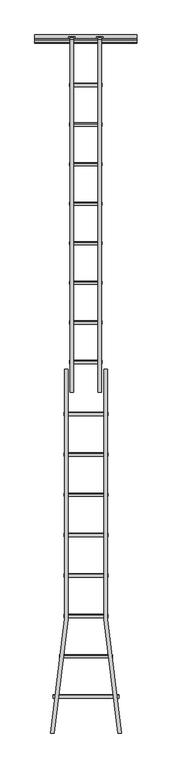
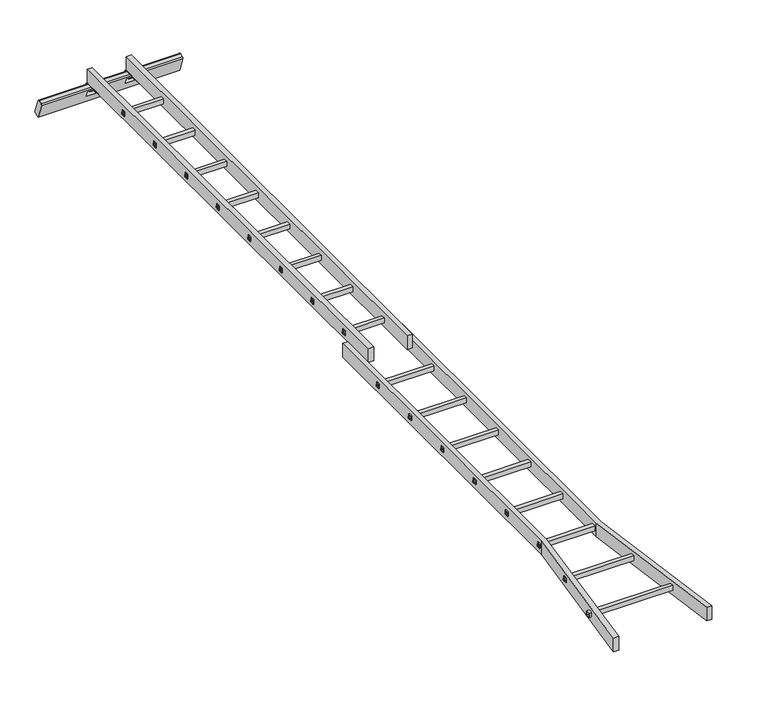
"""IFC4 building model written with IfcOpenShell, lengths in millimetres: proxy geometry, 9_Topaccess_Trap_2delige1 : 9_Topaccess_Trap_2delige1."""

import ifcopenshell
import ifcopenshell.guid

model = None  # the IFC model being written
_history = None  # IfcOwnerHistory: only IFC2X3 demands one
_inside = {}  # id of a spatial element -> (the spatial element, [elements in it])
_under = {}  # id of a project, library or spatial element -> (it, [spatial elements below it])
_declared = {}  # id of a project -> (the project, [libraries it declares])
_typed = {}  # id of a type object -> (the type object, [elements of that type])
_made_of = {}  # id of a material, layer set ... -> (it, [elements and type objects made of it])


def new_model(schema):
    """Start an empty IFC model of exactly this schema.

    Asked for "IFC4X3", IfcOpenShell would pick the latest addendum, in which some entities
    have other attributes; the version numbers below select the first issue.
    IFC2X3 requires an IfcOwnerHistory on every rooted entity: one is made here for all.
    """
    global model, _history
    if schema == "IFC4X3":
        model = ifcopenshell.file(schema_version=(4, 3, 0, 0))
    else:
        model = ifcopenshell.file(schema=schema)
    _inside.clear()
    _under.clear()
    _declared.clear()
    _typed.clear()
    _made_of.clear()
    _history = None
    if model.schema == "IFC2X3":
        org = make("IfcOrganization", Name="unknown")
        user = make(
            "IfcPersonAndOrganization",
            ThePerson=make("IfcPerson", FamilyName="unknown"),
            TheOrganization=org,
        )
        app = make(
            "IfcApplication",
            ApplicationDeveloper=org,
            Version="unknown",
            ApplicationFullName="unknown",
            ApplicationIdentifier="unknown",
        )
        _history = make(
            "IfcOwnerHistory",
            OwningUser=user,
            OwningApplication=app,
            ChangeAction="ADDED",
            CreationDate=0,
        )
    return model


def make(cls, **values):
    """One entity of the class cls with the attributes given. An attribute that is None is left unset."""
    return model.create_entity(
        cls, **{name: value for name, value in values.items() if value is not None}
    )


def rooted(cls, **values):
    """An entity with a GlobalId (a new one), such as an element, a storey or a relation."""
    return make(cls, GlobalId=ifcopenshell.guid.new(), OwnerHistory=_history, **values)


def si_unit(unit_type, name, prefix=None):
    """IfcSIUnit, for example si_unit("LENGTHUNIT", "METRE", prefix="MILLI")."""
    return make("IfcSIUnit", UnitType=unit_type, Prefix=prefix, Name=name)


def assignment(units):
    """IfcUnitAssignment: the units of a project."""
    return None if units is None else make("IfcUnitAssignment", Units=units)


def point(xyz):
    """IfcCartesianPoint."""
    return None if xyz is None else make("IfcCartesianPoint", Coordinates=xyz)


def direction(xyz):
    """IfcDirection."""
    return None if xyz is None else make("IfcDirection", DirectionRatios=xyz)


def frame(location, z_axis=None, x_axis=None):
    """IfcAxis2Placement3D, a coordinate frame: its origin and axes. An axis left out is left unset."""
    return make(
        "IfcAxis2Placement3D",
        Location=point(location),
        Axis=direction(z_axis),
        RefDirection=direction(x_axis),
    )


def frame_2d(location, x_axis=None):
    """IfcAxis2Placement2D, a coordinate frame in the plane: its origin and x axis."""
    return make(
        "IfcAxis2Placement2D", Location=point(location), RefDirection=direction(x_axis)
    )


def origin():
    """The frame at (0, 0, 0) with its axes left unset."""
    return frame((0.0, 0.0, 0.0))


def place(relative_to, where):
    """IfcLocalPlacement: puts the frame where relative to a parent placement (None: the world)."""
    return make(
        "IfcLocalPlacement", PlacementRelTo=relative_to, RelativePlacement=where
    )


def context(
    kind, dimensions, precision=None, world=None, true_north=None, identifier=None
):
    """IfcGeometricRepresentationContext, for example the 3D "Model" context."""
    return make(
        "IfcGeometricRepresentationContext",
        ContextIdentifier=identifier,
        ContextType=kind,
        CoordinateSpaceDimension=dimensions,
        Precision=precision,
        WorldCoordinateSystem=world,
        TrueNorth=true_north,
    )


def project(units=None, contexts=None):
    """IfcProject with its units and contexts."""
    return rooted(
        "IfcProject",
        Name="project",
        RepresentationContexts=contexts,
        UnitsInContext=assignment(units),
    )


def spatial(cls, under=None, at=None, **own):
    """A site, building, storey or space (cls), placed at a placement, below another one or the project."""
    s = rooted(cls, ObjectPlacement=at, **own)
    if under is not None:
        _under.setdefault(under.id(), (under, []))[1].append(s)
    return s


def polyline(points):
    """IfcPolyline through the points."""
    return make("IfcPolyline", Points=[point(p) for p in points])


def circle_curve(where, radius):
    """IfcCircle in the frame where."""
    return make("IfcCircle", Position=where, Radius=radius)


def trimmed(basis, trim1, trim2, sense, master):
    """IfcTrimmedCurve: the piece of a basis curve between two trims."""
    return make(
        "IfcTrimmedCurve",
        BasisCurve=basis,
        Trim1=trim1,
        Trim2=trim2,
        SenseAgreement=sense,
        MasterRepresentation=master,
    )


def segment(curve, same_sense, transition):
    """IfcCompositeCurveSegment."""
    return make(
        "IfcCompositeCurveSegment",
        Transition=transition,
        SameSense=same_sense,
        ParentCurve=curve,
    )


def composite_curve(segments, self_intersect=None):
    """IfcCompositeCurve: segments joined end to end."""
    return make("IfcCompositeCurve", Segments=segments, SelfIntersect=self_intersect)


def outline(outer, holes=None, kind="AREA"):
    """IfcArbitraryClosedProfileDef: a profile drawn as a closed curve; with holes, ...WithVoids."""
    if holes is None:
        return make("IfcArbitraryClosedProfileDef", ProfileType=kind, OuterCurve=outer)
    return make(
        "IfcArbitraryProfileDefWithVoids",
        ProfileType=kind,
        OuterCurve=outer,
        InnerCurves=holes,
    )


def extrude(swept, where, along, depth):
    """IfcExtrudedAreaSolid: the profile swept, set in the frame where, extruded along a direction by depth."""
    return make(
        "IfcExtrudedAreaSolid",
        SweptArea=swept,
        Position=where,
        ExtrudedDirection=direction(along),
        Depth=depth,
    )


def faces_of(points, faces, orient=None, outer=None):
    """IfcFace entities. A face is a list of loops; a loop is a list of indices into points, from 0.

    orient and outer hold one flag for each loop. By default every Orientation is true, the
    first loop of a face is its IfcFaceOuterBound and the others are IfcFaceBound.
    """
    made = []
    for i, loops in enumerate(faces):
        bounds = []
        for j, loop in enumerate(loops):
            is_outer = j == 0 if outer is None else outer[i][j]
            bounds.append(
                make(
                    "IfcFaceOuterBound" if is_outer else "IfcFaceBound",
                    Bound=make("IfcPolyLoop", Polygon=[points[k] for k in loop]),
                    Orientation=True if orient is None else orient[i][j],
                )
            )
        made.append(make("IfcFace", Bounds=bounds))
    return made


def faceted_brep(points, faces, orient=None, outer=None, voids=None):
    """IfcFacetedBrep: a solid bounded by flat faces; with voids (closed shells), ...WithVoids."""
    shared = [point(p) for p in points]
    hull = make("IfcClosedShell", CfsFaces=faces_of(shared, faces, orient, outer))
    if voids is None:
        return make("IfcFacetedBrep", Outer=hull)
    return make(
        "IfcFacetedBrepWithVoids",
        Outer=hull,
        Voids=[
            make(cls, CfsFaces=faces_of(shared, fs, o, b)) for cls, fs, o, b in voids
        ],
    )


def shape(context_of_items, identifier, shape_type, items):
    """IfcShapeRepresentation: the items that make up one representation, for example the "Body"."""
    return make(
        "IfcShapeRepresentation",
        ContextOfItems=context_of_items,
        RepresentationIdentifier=identifier,
        RepresentationType=shape_type,
        Items=items,
    )


def source(mapping_origin, context_of_items, identifier, shape_type, items):
    """IfcRepresentationMap: a shape defined once, which mapped items show again and again."""
    return make(
        "IfcRepresentationMap",
        MappingOrigin=mapping_origin,
        MappedRepresentation=shape(context_of_items, identifier, shape_type, items),
    )


def transform(
    local_origin,
    x_axis=None,
    y_axis=None,
    z_axis=None,
    scale=None,
    scale2=None,
    scale3=None,
    uniform=True,
):
    """IfcCartesianTransformationOperator3D, or its non-uniform kind. x_axis, y_axis, z_axis: its Axis1, 2, 3."""
    if uniform:
        return make(
            "IfcCartesianTransformationOperator3D",
            Axis1=direction(x_axis),
            Axis2=direction(y_axis),
            LocalOrigin=point(local_origin),
            Scale=scale,
            Axis3=direction(z_axis),
        )
    return make(
        "IfcCartesianTransformationOperator3DnonUniform",
        Axis1=direction(x_axis),
        Axis2=direction(y_axis),
        LocalOrigin=point(local_origin),
        Scale=scale,
        Axis3=direction(z_axis),
        Scale2=scale2,
        Scale3=scale3,
    )


def mapped(mapping_source, mapping_target):
    """IfcMappedItem: shows the shape of a source again, moved by a transform."""
    return make(
        "IfcMappedItem", MappingSource=mapping_source, MappingTarget=mapping_target
    )


def made_of(thing, what):
    """Note that an element or type object is made of a material, layer set ...; save() writes the relation."""
    if what is not None:
        _made_of.setdefault(what.id(), (what, []))[1].append(thing)
    return thing


def element(
    cls,
    number,
    at=None,
    inside=None,
    cuts=None,
    type_object=None,
    material=None,
    context=None,
    identifier="Body",
    shape_type=None,
    held_by="IfcProductDefinitionShape",
    body=None,
    shapes=None,
    **own,
):
    """One element of the class cls, such as IfcWall. Its Tag is "e" and its number.

    at: its placement. inside: the storey or other place that contains it. cuts: it is an
    opening in that element (IfcRelVoidsElement). A single representation is given by context,
    identifier, shape_type and body (its items); several are given by shapes. held_by: the class
    of the entity that holds the representations. save() writes the other relations.
    """
    e = rooted(cls, Tag="e%d" % number, ObjectPlacement=at, **own)
    if body is not None:
        shapes = [shape(context, identifier, shape_type, body)]
    if shapes is not None:
        e.Representation = make(held_by, Representations=shapes)
    if inside is not None:
        _inside.setdefault(inside.id(), (inside, []))[1].append(e)
    if cuts is not None:
        rooted(
            "IfcRelVoidsElement", RelatingBuildingElement=cuts, RelatedOpeningElement=e
        )
    if type_object is not None:
        _typed.setdefault(type_object.id(), (type_object, []))[1].append(e)
    return made_of(e, material)


def aggregate(whole, parts):
    """IfcRelAggregates: a whole, such as a stair, and the parts it consists of."""
    return rooted("IfcRelAggregates", RelatingObject=whole, RelatedObjects=parts)


def save(model, path):
    """Write the relations noted so far, then the file.

    IfcRelAggregates (storeys below a building ...), IfcRelContainedInSpatialStructure (elements
    in a storey), IfcRelDefinesByType, IfcRelAssociatesMaterial and IfcRelDeclares: one each for
    every whole, place, type object, material and project.
    """
    for whole, parts in _under.values():
        aggregate(whole, parts)
    for where, things in _inside.values():
        rooted(
            "IfcRelContainedInSpatialStructure",
            RelatedElements=things,
            RelatingStructure=where,
        )
    for kind, things in _typed.values():
        rooted("IfcRelDefinesByType", RelatedObjects=things, RelatingType=kind)
    for what, things in _made_of.values():
        rooted("IfcRelAssociatesMaterial", RelatedObjects=things, RelatingMaterial=what)
    for by, libraries in _declared.values():
        rooted("IfcRelDeclares", RelatingContext=by, RelatedDefinitions=libraries)
    model.write(path)


def plane_surface(at):
    """IfcPlane: the flat surface through the origin of the frame at, square to its z axis."""
    return make("IfcPlane", Position=at)


def cylinder_surface(at, radius):
    """IfcCylindricalSurface: all points at the distance radius from the z axis of the frame at."""
    return make("IfcCylindricalSurface", Position=at, Radius=radius)


def advanced_brep(points, edges, surfaces, faces):
    """IfcAdvancedBrep: a solid bounded by faces that lie on surfaces and meet in shared edges.

    An edge is (start, end): straight between two places in points (the first is 0);
    or (start, end, curve); or (start, end, curve, False) where it runs against its curve.
    A face is (place in surfaces, loops), or (place, loops, False) where it looks against
    its surface's normal. A loop lists edges by number (the first is 1), with a minus sign
    where the edge is run from its end to its start. The first loop is the outer one.
    """
    corners = [point(p) for p in points]
    vertices = [make("IfcVertexPoint", VertexGeometry=c) for c in corners]
    made = []
    for start, end, *more in edges:
        made.append(
            make(
                "IfcEdgeCurve",
                EdgeStart=vertices[start],
                EdgeEnd=vertices[end],
                EdgeGeometry=more[0] if more else make("IfcPolyline", Points=[corners[start], corners[end]]),
                SameSense=more[1] if len(more) > 1 else True,
            )
        )
    hull = []
    for where, loops, *sense in faces:
        bounds = []
        for j, loop in enumerate(loops):
            ring = [make("IfcOrientedEdge", EdgeElement=made[abs(k) - 1], Orientation=k > 0) for k in loop]
            bounds.append(
                make(
                    "IfcFaceOuterBound" if j == 0 else "IfcFaceBound",
                    Bound=make("IfcEdgeLoop", EdgeList=ring),
                    Orientation=True,
                )
            )
        hull.append(make("IfcAdvancedFace", Bounds=bounds, FaceSurface=surfaces[where], SameSense=sense[0] if sense else True))
    return make("IfcAdvancedBrep", Outer=make("IfcClosedShell", CfsFaces=hull))


def generic_models_bd8c62b8(model_context):
    return source(origin(), model_context, "Body", "SolidModel", [
        advanced_brep(
        [(415.7084157, 3.7135385, -65.5695796), (415.7084157, 41.3012433, -51.8887739), (415.7084157, 5.4722304, 46.5506299), (415.7084157, -6.0149188, 51.694848), (415.7084157, -26.6224472, 44.1943211), (415.7084157, -32.1154744, 32.8698242), (-484.2915843, 3.7135385, -65.5695796), (-484.2915843, -32.1154744, 32.8698242), (-484.2915843, -26.6224472, 44.1943211), (-484.2915843, -6.0149188, 51.694848), (-484.2915843, 5.4722304, 46.5506299), (-484.2915843, 41.3012433, -51.8887739), (118.0, 24.1096429, -4.6552401), (118.0, 9.5635744, 35.3097548), (59.0, 9.5635744, 35.3097548), (59.0, 24.1096429, -4.6552401), (-129.0, 24.1096429, -4.6552401), (-129.0, 9.5635744, 35.3097548), (-188.0, 9.5635744, 35.3097548), (-188.0, 24.1096429, -4.6552401), (118.0, -28.0241305, 21.6289491), (118.0, -13.4780619, -18.3360459), (59.0, -13.4780619, -18.3360459), (59.0, -28.0241305, 21.6289491), (-129.0, -28.0241305, 21.6289491), (-129.0, -13.4780619, -18.3360459), (-188.0, -13.4780619, -18.3360459), (-188.0, -28.0241305, 21.6289491)],
        [
            (0, 1),
            (1, 2),
            (2, 3, circle_curve(frame((415.7084157, -3.3366644, 42.2778132), z_axis=(1.0, 0.0, 0.0), x_axis=(0.0, 1.0, 0.0)), 9.7904847)),
            (3, 4),
            (4, 5, circle_curve(frame((415.7084157, -22.6209558, 35.2589052), z_axis=(1.0, 0.0, 0.0), x_axis=(0.0, 1.0, 0.0)), 9.7904847)),
            (5, 0),
            (6, 7),
            (7, 8, circle_curve(frame((-484.2915843, -22.6209558, 35.2589052), z_axis=(-1.0, 0.0, 0.0), x_axis=(0.0, 1.0, 0.0)), 9.7904847)),
            (8, 9),
            (9, 10, circle_curve(frame((-484.2915843, -3.3366644, 42.2778132), z_axis=(-1.0, 0.0, 0.0), x_axis=(0.0, 1.0, 0.0)), 9.7904847)),
            (10, 11),
            (11, 6),
            (0, 6),
            (11, 1),
            (10, 2),
            (12, 13),
            (13, 14),
            (14, 15),
            (15, 12),
            (16, 17),
            (17, 18),
            (18, 19),
            (19, 16),
            (3, 9),
            (8, 4),
            (5, 7),
            (20, 21),
            (21, 22),
            (22, 23),
            (23, 20),
            (24, 25),
            (25, 26),
            (26, 27),
            (27, 24),
            (20, 13),
            (12, 21),
            (22, 15),
            (14, 23),
            (24, 17),
            (16, 25),
            (26, 19),
            (18, 27),
        ],
        [
            plane_surface(frame((415.7084157, 3.7135385, -65.5695796), z_axis=(1.0, 0.0, 0.0), x_axis=(0.0, 0.9396926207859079, 0.34202014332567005))),
            plane_surface(frame((-484.2915843, 3.7135385, -65.5695796), z_axis=(-1.0, 0.0, 0.0), x_axis=(0.0, -0.9396926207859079, -0.34202014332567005))),
            plane_surface(frame((415.7084157, 3.7135385, -65.5695796), z_axis=(0.0, 0.34202014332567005, -0.9396926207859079), x_axis=(-1.0, 0.0, 0.0))),
            plane_surface(frame((415.7084157, 41.3012433, -51.8887739), z_axis=(0.0, 0.9396926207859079, 0.34202014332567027), x_axis=(-1.0, 0.0, 0.0))),
            plane_surface(frame((415.7084157, -6.0149188, 51.694848), z_axis=(0.0, -0.3420201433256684, 0.9396926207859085), x_axis=(-1.0, 0.0, 0.0))),
            plane_surface(frame((415.7084157, -32.1154744, 32.8698242), z_axis=(0.0, -0.9396926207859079, -0.34202014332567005), x_axis=(-1.0, 0.0, 0.0))),
            plane_surface(frame((118.0, -28.0241305, 21.6289491), z_axis=(-1.0000000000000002, 0.0, 0.0), x_axis=(0.0, 0.34202014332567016, -0.939692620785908))),
            plane_surface(frame((59.0, -28.0241305, 21.6289491), z_axis=(1.0000000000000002, 0.0, 0.0), x_axis=(0.0, -0.34202014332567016, 0.939692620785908))),
            plane_surface(frame((118.0, -13.4780619, -18.3360459), z_axis=(0.0, -0.3420201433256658, 0.9396926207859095), x_axis=(-1.0, 0.0, 0.0))),
            plane_surface(frame((118.0, 9.5635744, 35.3097548), z_axis=(0.0, 0.34202014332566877, -0.9396926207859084), x_axis=(-1.0, 0.0, 0.0))),
            plane_surface(frame((-129.0, 1.7959371, -67.5174339), z_axis=(-1.0000000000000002, 0.0, 0.0), x_axis=(0.0, 0.3420201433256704, -0.9396926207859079))),
            plane_surface(frame((-188.0, 1.7959371, -67.5174339), z_axis=(1.0000000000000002, 0.0, 0.0), x_axis=(0.0, -0.3420201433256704, 0.9396926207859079))),
            plane_surface(frame((-129.0, -15.7973748, -19.1802067), z_axis=(0.0, -0.3420201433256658, 0.9396926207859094), x_axis=(-1.0, 0.0, 0.0))),
            plane_surface(frame((-129.0, 9.5635744, 35.3097548), z_axis=(0.0, 0.342020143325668, -0.9396926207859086), x_axis=(-1.0, 0.0, 0.0))),
            cylinder_surface(frame((-484.2915843, -3.3366644, 42.2778132), z_axis=(1.0, 0.0, 0.0), x_axis=(0.0, 1.0, 0.0)), 9.7904847),
            cylinder_surface(frame((-484.2915843, -22.6209558, 35.2589052), z_axis=(1.0, 0.0, 0.0), x_axis=(0.0, 1.0, 0.0)), 9.7904847),
        ],
        [
            (0, [[1, 2, 3, 4, 5, 6]]),
            (1, [[7, 8, 9, 10, 11, 12]]),
            (2, [[-1, 13, -12, 14]]),
            (3, [[-2, -14, -11, 15], [16, 17, 18, 19], [20, 21, 22, 23]]),
            (4, [[-4, 24, -9, 25]]),
            (5, [[-6, 26, -7, -13], [27, 28, 29, 30], [31, 32, 33, 34]]),
            (6, [[35, -16, 36, -27]]),
            (7, [[37, -18, 38, -29]]),
            (8, [[-36, -19, -37, -28]]),
            (9, [[-35, -30, -38, -17]]),
            (10, [[39, -20, 40, -31]]),
            (11, [[41, -22, 42, -33]]),
            (12, [[-40, -23, -41, -32]]),
            (13, [[-39, -34, -42, -21]]),
            (14, [[-3, -15, -10, -24]]),
            (15, [[-5, -25, -8, -26]]),
        ],
    ),
        extrude(outline(composite_curve([segment(polyline([(-125.7037498, 57.9971939), (-5.7036196, 57.9971939)]), True, "CONTINUOUS"), segment(trimmed(circle_curve(frame_2d((-5.7036196, 36.6215624)), 21.3756315), [point((-5.7036196, 57.9971939))], [point((-0.8298819, 15.8089628))], False, "CARTESIAN"), True, "CONTINUOUS"), segment(polyline([(-0.8298819, 15.8089628), (-28.532391, 15.8089628), (-28.532391, 18.8089628), (-1.1897379, 18.8089628)]), True, "CONTINUOUS"), segment(trimmed(circle_curve(frame_2d((-5.7036196, 36.6215624)), 18.3756315), [point((-1.1897379, 18.8089628))], [point((-5.7036196, 54.9971939))], True, "CARTESIAN"), True, "CONTINUOUS"), segment(polyline([(-5.7036196, 54.9971939), (-125.7037498, 54.9971939), (-125.7037498, 57.9971939)]), True, "CONTINUOUS")], self_intersect=False)), frame((72.0, 0.0, 0.0), z_axis=(1.0, 0.0, 0.0), x_axis=(0.0, 1.0, 0.0)), (0.0, 0.0, 1.0), 33.0),
        extrude(outline(composite_curve([segment(trimmed(circle_curve(frame_2d((-5.7036196, 36.6215624)), 21.3756315), [point((-5.7036196, 57.9971939))], [point((-0.8298819, 15.8089628))], False, "CARTESIAN"), True, "CONTINUOUS"), segment(polyline([(-0.8298819, 15.8089628), (-28.532391, 15.8089628), (-28.532391, 18.8089628), (-1.1897379, 18.8089628)]), True, "CONTINUOUS"), segment(trimmed(circle_curve(frame_2d((-5.7036196, 36.6215624)), 18.3756315), [point((-1.1897379, 18.8089628))], [point((-5.7036196, 54.9971939))], True, "CARTESIAN"), True, "CONTINUOUS"), segment(polyline([(-5.7036196, 54.9971939), (-125.7037498, 54.9971939), (-125.7037498, 57.9971939), (-5.7036196, 57.9971939)]), True, "CONTINUOUS")], self_intersect=False)), frame((-175.0, 0.0, 0.0), z_axis=(1.0, 0.0, 0.0), x_axis=(0.0, 1.0, 0.0)), (0.0, 0.0, 1.0), 33.0),
        faceted_brep([(-142.0, 0.0, 150.0), (-175.0, 0.0, 150.0), (-175.0, -3100.0, 150.0), (-142.0, -3100.0, 150.0), (-142.0, -3100.0, 58.0), (-175.0, -3100.0, 58.0), (-175.0, 0.0, 58.0), (-142.0, 0.0, 58.0), (-142.0, -132.2424409, 58.0), (-142.0, 0.0, 64.5843884)], [[[0, 1, 2, 3]], [[4, 5, 6, 7, 8]], [[1, 0, 9, 7, 6]], [[2, 1, 6, 5]], [[3, 2, 5, 4]], [[0, 3, 4, 8, 7, 9]]]),
        faceted_brep([(105.0, 0.0, 150.0), (72.0, 0.0, 150.0), (72.0, -3100.0, 150.0), (105.0, -3100.0, 150.0), (105.0, 0.0, 58.0), (105.0, -3100.0, 58.0), (72.0, -3100.0, 58.0), (72.0, -132.2424409, 58.0), (72.0, 0.0, 58.0), (72.0, 0.0, 64.5843884)], [[[0, 1, 2, 3]], [[4, 5, 6, 7, 8]], [[1, 0, 4, 8, 9]], [[2, 1, 9, 8, 7, 6]], [[3, 2, 6, 5]], [[0, 3, 5, 4]]]),
        extrude(outline(polyline([(-3281.4974853, 55.5843884), (-3276.8596378, 22.5843884), (-3306.8596378, 22.5843884), (-3306.8596378, 55.5843884), (-3281.4974853, 55.5843884)]), holes=[polyline([(-3301.8596378, 50.5843884), (-3301.8596378, 27.5843884), (-3282.6114798, 27.5843884), (-3285.843919, 50.5843884), (-3301.8596378, 50.5843884)])]), frame((-227.0772918, 0.0, 0.0), z_axis=(1.0, 0.0, 0.0), x_axis=(0.0, 1.0, 0.0)), (0.0, 0.0, 1.0), 389.0772918),
        extrude(outline(polyline([(-3636.4974853, 55.5843884), (-3631.8596378, 22.5843884), (-3661.8596378, 22.5843884), (-3661.8596378, 55.5843884), (-3636.4974853, 55.5843884)]), holes=[polyline([(-3656.8596378, 50.5843884), (-3656.8596378, 27.5843884), (-3637.6114798, 27.5843884), (-3640.843919, 50.5843884), (-3656.8596378, 50.5843884)])]), frame((-227.0772918, 0.0, 0.0), z_axis=(1.0, 0.0, 0.0), x_axis=(0.0, 1.0, 0.0)), (0.0, 0.0, 1.0), 389.0772918),
        extrude(outline(polyline([(-3991.4974853, 55.5843884), (-3986.8596378, 22.5843884), (-4016.8596378, 22.5843884), (-4016.8596378, 55.5843884), (-3991.4974853, 55.5843884)]), holes=[polyline([(-4011.8596378, 50.5843884), (-4011.8596378, 27.5843884), (-3992.6114798, 27.5843884), (-3995.843919, 50.5843884), (-4011.8596378, 50.5843884)])]), frame((-227.0772918, 0.0, 0.0), z_axis=(1.0, 0.0, 0.0), x_axis=(0.0, 1.0, 0.0)), (0.0, 0.0, 1.0), 389.0772918),
        extrude(outline(polyline([(-4346.4974853, 55.5843884), (-4341.8596378, 22.5843884), (-4371.8596378, 22.5843884), (-4371.8596378, 55.5843884), (-4346.4974853, 55.5843884)]), holes=[polyline([(-4366.8596378, 50.5843884), (-4366.8596378, 27.5843884), (-4347.6114798, 27.5843884), (-4350.843919, 50.5843884), (-4366.8596378, 50.5843884)])]), frame((-227.0772918, 0.0, 0.0), z_axis=(1.0, 0.0, 0.0), x_axis=(0.0, 1.0, 0.0)), (0.0, 0.0, 1.0), 389.0772918),
        extrude(outline(polyline([(-4701.4974853, 55.5843884), (-4696.8596378, 22.5843884), (-4726.8596378, 22.5843884), (-4726.8596378, 55.5843884), (-4701.4974853, 55.5843884)]), holes=[polyline([(-4721.8596378, 50.5843884), (-4721.8596378, 27.5843884), (-4702.6114798, 27.5843884), (-4705.843919, 50.5843884), (-4721.8596378, 50.5843884)])]), frame((-227.0772918, 0.0, 0.0), z_axis=(1.0, 0.0, 0.0), x_axis=(0.0, 1.0, 0.0)), (0.0, 0.0, 1.0), 389.0772918),
        extrude(outline(polyline([(-5056.4974853, 55.5843884), (-5051.8596378, 22.5843884), (-5081.8596378, 22.5843884), (-5081.8596378, 55.5843884), (-5056.4974853, 55.5843884)]), holes=[polyline([(-5076.8596378, 50.5843884), (-5076.8596378, 27.5843884), (-5057.6114798, 27.5843884), (-5060.843919, 50.5843884), (-5076.8596378, 50.5843884)])]), frame((-227.0772918, 0.0, 0.0), z_axis=(1.0, 0.0, 0.0), x_axis=(0.0, 1.0, 0.0)), (0.0, 0.0, 1.0), 389.0772918),
        extrude(outline(polyline([(-5411.4974853, 55.5843884), (-5406.8596378, 22.5843884), (-5436.8596378, 22.5843884), (-5436.8596378, 55.5843884), (-5411.4974853, 55.5843884)]), holes=[polyline([(-5431.8596378, 50.5843884), (-5431.8596378, 27.5843884), (-5412.6114798, 27.5843884), (-5415.843919, 50.5843884), (-5431.8596378, 50.5843884)])]), frame((-266.0001215, 0.0, 0.0), z_axis=(1.0, 0.0, 0.0), x_axis=(0.0, 1.0, 0.0)), (0.0, 0.0, 1.0), 465.0001215),
        extrude(outline(polyline([(-5766.4974853, 55.5843884), (-5761.8596378, 22.5843884), (-5791.8596378, 22.5843884), (-5791.8596378, 55.5843884), (-5766.4974853, 55.5843884)]), holes=[polyline([(-5786.8596378, 50.5843884), (-5786.8596378, 27.5843884), (-5767.6114798, 27.5843884), (-5770.843919, 50.5843884), (-5786.8596378, 50.5843884)])]), frame((-323.9517116, 0.0, 0.0), z_axis=(1.0, 0.0, 0.0), x_axis=(0.0, 1.0, 0.0)), (0.0, 0.0, 1.0), 580.3455357),
        extrude(outline(polyline([(-223.0, -5092.7386363), (-223.0, -2897.7386363), (-190.0, -2897.7386363), (-190.0, -5094.7570028), (-313.1506595, -6097.7386363), (-346.3984837, -6097.7386363), (-223.0, -5092.7386363)])), frame((0.0, 0.0, -12.0), z_axis=(0.0, 0.0, 1.0), x_axis=(1.0, 0.0, 0.0)), (0.0, 0.0, 1.0), 92.0),
        extrude(outline(polyline([(124.0, -5094.7570028), (124.0, -2897.7386363), (157.0, -2897.7386363), (157.0, -5094.7570028), (280.3984837, -6097.7386363), (247.1506595, -6097.7386363), (124.0, -5094.7570028)])), frame((0.0, 0.0, -12.0), z_axis=(0.0, 0.0, 1.0), x_axis=(1.0, 0.0, 0.0)), (0.0, 0.0, 1.0), 92.0),
        extrude(outline(polyline([(-390.3415973, 117.5843884), (-385.7037498, 84.5843884), (-415.7037498, 84.5843884), (-415.7037498, 117.5843884), (-390.3415973, 117.5843884)]), holes=[polyline([(-410.7037498, 112.5843884), (-410.7037498, 89.5843884), (-391.4555918, 89.5843884), (-394.688031, 112.5843884), (-410.7037498, 112.5843884)])]), frame((-178.5831686, 0.0, 0.0), z_axis=(1.0, 0.0, 0.0), x_axis=(0.0, 1.0, 0.0)), (0.0, 0.0, 1.0), 288.5831686),
        extrude(outline(polyline([(-737.8415973, 117.5843884), (-733.2037498, 84.5843884), (-763.2037498, 84.5843884), (-763.2037498, 117.5843884), (-737.8415973, 117.5843884)]), holes=[polyline([(-758.2037498, 112.5843884), (-758.2037498, 89.5843884), (-738.9555918, 89.5843884), (-742.188031, 112.5843884), (-758.2037498, 112.5843884)])]), frame((-178.5831686, 0.0, 0.0), z_axis=(1.0, 0.0, 0.0), x_axis=(0.0, 1.0, 0.0)), (0.0, 0.0, 1.0), 288.5831686),
        extrude(outline(polyline([(-1085.3415973, 117.5843884), (-1080.7037498, 84.5843884), (-1110.7037498, 84.5843884), (-1110.7037498, 117.5843884), (-1085.3415973, 117.5843884)]), holes=[polyline([(-1105.7037498, 112.5843884), (-1105.7037498, 89.5843884), (-1086.4555918, 89.5843884), (-1089.688031, 112.5843884), (-1105.7037498, 112.5843884)])]), frame((-178.5831686, 0.0, 0.0), z_axis=(1.0, 0.0, 0.0), x_axis=(0.0, 1.0, 0.0)), (0.0, 0.0, 1.0), 288.5831686),
        extrude(outline(polyline([(-1432.8415973, 117.5843884), (-1428.2037498, 84.5843884), (-1458.2037498, 84.5843884), (-1458.2037498, 117.5843884), (-1432.8415973, 117.5843884)]), holes=[polyline([(-1453.2037498, 112.5843884), (-1453.2037498, 89.5843884), (-1433.9555918, 89.5843884), (-1437.188031, 112.5843884), (-1453.2037498, 112.5843884)])]), frame((-178.5831686, 0.0, 0.0), z_axis=(1.0, 0.0, 0.0), x_axis=(0.0, 1.0, 0.0)), (0.0, 0.0, 1.0), 288.5831686),
        extrude(outline(polyline([(-1780.3415973, 117.5843884), (-1775.7037498, 84.5843884), (-1805.7037498, 84.5843884), (-1805.7037498, 117.5843884), (-1780.3415973, 117.5843884)]), holes=[polyline([(-1800.7037498, 112.5843884), (-1800.7037498, 89.5843884), (-1781.4555918, 89.5843884), (-1784.688031, 112.5843884), (-1800.7037498, 112.5843884)])]), frame((-178.5831686, 0.0, 0.0), z_axis=(1.0, 0.0, 0.0), x_axis=(0.0, 1.0, 0.0)), (0.0, 0.0, 1.0), 288.5831686),
        extrude(outline(polyline([(-2127.8415973, 117.5843884), (-2123.2037498, 84.5843884), (-2153.2037498, 84.5843884), (-2153.2037498, 117.5843884), (-2127.8415973, 117.5843884)]), holes=[polyline([(-2148.2037498, 112.5843884), (-2148.2037498, 89.5843884), (-2128.9555918, 89.5843884), (-2132.188031, 112.5843884), (-2148.2037498, 112.5843884)])]), frame((-178.5831686, 0.0, 0.0), z_axis=(1.0, 0.0, 0.0), x_axis=(0.0, 1.0, 0.0)), (0.0, 0.0, 1.0), 288.5831686),
        extrude(outline(polyline([(-2475.3415973, 117.5843884), (-2470.7037498, 84.5843884), (-2500.7037498, 84.5843884), (-2500.7037498, 117.5843884), (-2475.3415973, 117.5843884)]), holes=[polyline([(-2495.7037498, 112.5843884), (-2495.7037498, 89.5843884), (-2476.4555918, 89.5843884), (-2479.688031, 112.5843884), (-2495.7037498, 112.5843884)])]), frame((-178.5831686, 0.0, 0.0), z_axis=(1.0, 0.0, 0.0), x_axis=(0.0, 1.0, 0.0)), (0.0, 0.0, 1.0), 288.5831686),
        extrude(outline(polyline([(-2822.8415973, 117.5843884), (-2818.2037498, 84.5843884), (-2848.2037498, 84.5843884), (-2848.2037498, 117.5843884), (-2822.8415973, 117.5843884)]), holes=[polyline([(-2843.2037498, 112.5843884), (-2843.2037498, 89.5843884), (-2823.9555918, 89.5843884), (-2827.188031, 112.5843884), (-2843.2037498, 112.5843884)])]), frame((-178.5831686, 0.0, 0.0), z_axis=(1.0, 0.0, 0.0), x_axis=(0.0, 1.0, 0.0)), (0.0, 0.0, 1.0), 288.5831686),
    ])


if __name__ == "__main__":
    model = new_model("IFC4")
    model_context = context("Model", 3, world=origin())
    ifc_project = project(units=[si_unit("LENGTHUNIT", "METRE", prefix="MILLI")], contexts=[model_context])
    site = spatial("IfcSite", under=ifc_project)
    building = spatial("IfcBuilding", under=site)
    placement = place(None, origin())
    generic_models_shape = generic_models_bd8c62b8(model_context)
    element("IfcBuildingElementProxy", 1, Name="9_Topaccess_Trap_2delige1 : 9_Topaccess_Trap_2delige1", ObjectType="9_Topaccess_Trap_2delige1 : 9_Topaccess_Trap_2delige1", at=placement, inside=building, context=model_context, shape_type="MappedRepresentation", body=[
        mapped(generic_models_shape, transform((0.0, 0.0, 0.0), x_axis=(1.0, 0.0, 0.0), y_axis=(0.0, 1.0, 0.0), z_axis=(0.0, 0.0, 1.0))),
    ])
    save(model, "model.ifc")
